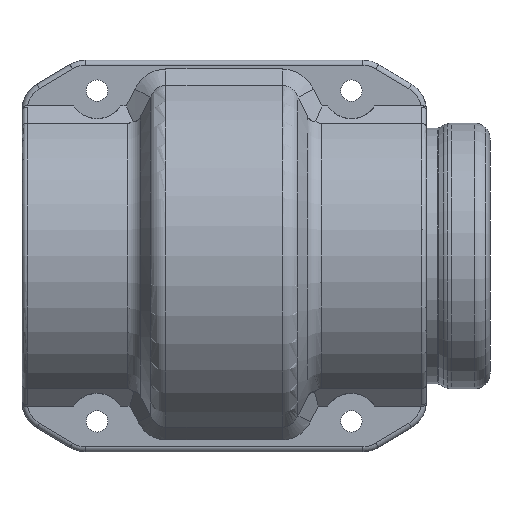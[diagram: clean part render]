
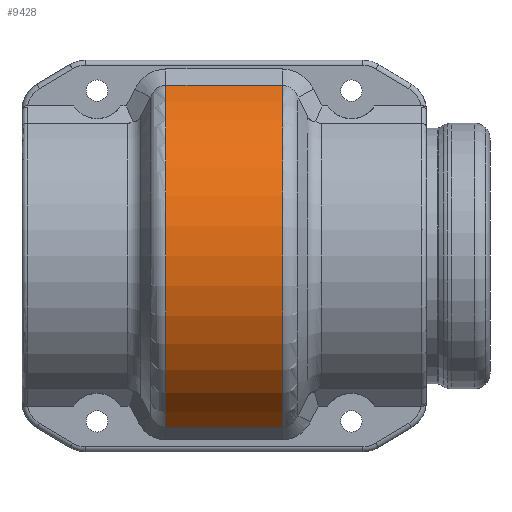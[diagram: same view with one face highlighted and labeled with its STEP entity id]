
A CAD part, front view. The second image highlights one B-rep face of the part: STEP entity #9428.
In plain terms, the highlighted cylindrical face has radius 37.15 mm (diameter 74.3 mm), a partial arc.
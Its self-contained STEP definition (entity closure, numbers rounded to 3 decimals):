
#7121=CARTESIAN_POINT('',(11.462,0.,0.));
#7122=DIRECTION('',(-1.,0.,0.));
#7123=DIRECTION('',(0.,0.,-1.));
#7124=AXIS2_PLACEMENT_3D('',#7121,#7122,#7123);
#7157=CARTESIAN_POINT('',(11.462,0.,0.));
#7158=DIRECTION('',(-1.,0.,0.));
#7159=DIRECTION('',(0.,0.906,-0.424));
#7160=AXIS2_PLACEMENT_3D('',#7157,#7158,#7159);
#7165=DIRECTION('',(1.,0.,0.));
#7166=VECTOR('',#7165,22.924);
#7167=CARTESIAN_POINT('',(-11.462,-33.557,
-15.938));
#7168=LINE('',#7167,#7166);
#7172=DIRECTION('',(-1.,0.,0.));
#7173=VECTOR('',#7172,22.924);
#7174=CARTESIAN_POINT('',(11.462,33.64,-15.763));
#7175=LINE('',#7174,#7173);
#7199=CARTESIAN_POINT('',(-11.462,0.,0.));
#7200=DIRECTION('',(1.,0.,0.));
#7201=DIRECTION('',(0.,-0.903,-0.429));
#7202=AXIS2_PLACEMENT_3D('',#7199,#7200,#7201);
#7207=CARTESIAN_POINT('',(-11.462,0.,0.));
#7208=DIRECTION('',(1.,0.,0.));
#7209=DIRECTION('',(0.,0.,-1.));
#7210=AXIS2_PLACEMENT_3D('',#7207,#7208,#7209);
#7315=CARTESIAN_POINT('',(11.462,33.64,-15.763));
#8184=CARTESIAN_POINT('',(11.462,0.,-37.15));
#8185=CARTESIAN_POINT('',(11.462,-33.557,
-15.938));
#8186=VERTEX_POINT('',#8184);
#8187=VERTEX_POINT('',#8185);
#8188=VERTEX_POINT('',#7315);
#8189=CARTESIAN_POINT('',(-11.462,-33.557,
-15.938));
#8190=CARTESIAN_POINT('',(-11.462,0.,-37.15));
#8191=VERTEX_POINT('',#8189);
#8192=VERTEX_POINT('',#8190);
#8193=CARTESIAN_POINT('',(-11.462,33.64,
-15.763));
#8194=VERTEX_POINT('',#8193);
#9411=CARTESIAN_POINT('',(45.067,0.,0.));
#9412=DIRECTION('',(-1.,0.,0.));
#9413=DIRECTION('',(0.,0.,-1.));
#9414=AXIS2_PLACEMENT_3D('',#9411,#9412,#9413);
#9415=CYLINDRICAL_SURFACE('',#9414,37.15);
#9417=ORIENTED_EDGE('',*,*,#9416,.F.);
#9419=ORIENTED_EDGE('',*,*,#9418,.T.);
#9420=ORIENTED_EDGE('',*,*,#9398,.F.);
#9421=ORIENTED_EDGE('',*,*,#9406,.F.);
#9423=ORIENTED_EDGE('',*,*,#9422,.T.);
#9425=ORIENTED_EDGE('',*,*,#9424,.F.);
#9426=EDGE_LOOP('',(#9417,#9419,#9420,#9421,#9423,#9425));
#9427=FACE_OUTER_BOUND('',#9426,.F.);
#7125=CIRCLE('',#7124,37.15);
#7161=CIRCLE('',#7160,37.15);
#7203=CIRCLE('',#7202,37.15);
#7211=CIRCLE('',#7210,37.15);
#9398=EDGE_CURVE('',#8186,#8187,#7125,.T.);
#9406=EDGE_CURVE('',#8188,#8186,#7161,.T.);
#9416=EDGE_CURVE('',#8191,#8192,#7203,.T.);
#9418=EDGE_CURVE('',#8191,#8187,#7168,.T.);
#9422=EDGE_CURVE('',#8188,#8194,#7175,.T.);
#9424=EDGE_CURVE('',#8192,#8194,#7211,.T.);
#9428=ADVANCED_FACE('',(#9427),#9415,.T.);
